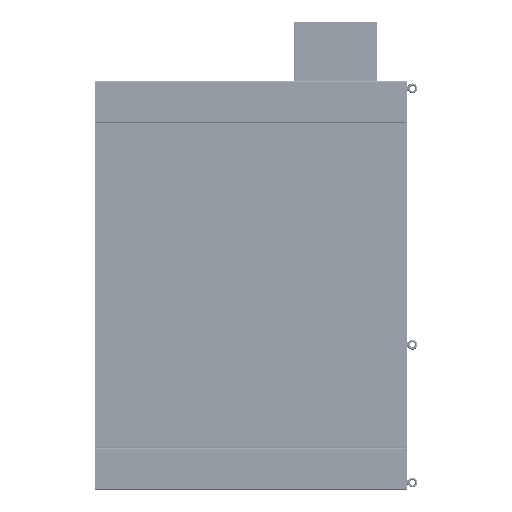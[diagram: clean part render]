
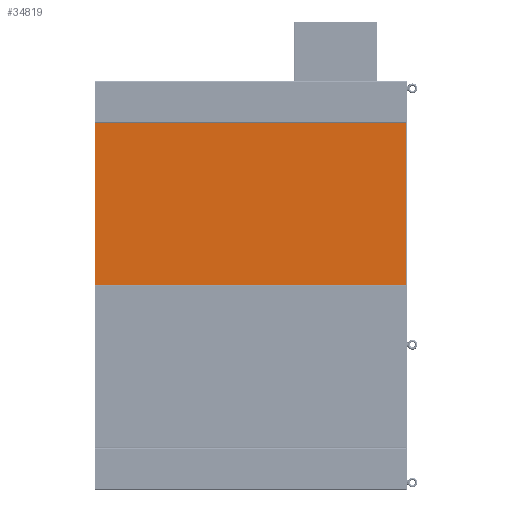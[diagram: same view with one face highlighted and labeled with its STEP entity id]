
A CAD part, left-side view. The second image highlights one B-rep face of the part: STEP entity #34819.
In plain terms, the highlighted planar face has unit normal (-1, 0, 0) as drawn and (0, 0, -1) by its records, which use the part's own axes.
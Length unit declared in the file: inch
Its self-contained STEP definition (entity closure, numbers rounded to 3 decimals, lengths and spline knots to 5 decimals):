
#32132=DIRECTION('',(0.,-1.,0.));
#32133=VECTOR('',#32132,89.75);
#32134=CARTESIAN_POINT('',(-23.25,0.,-0.125));
#32135=LINE('',#32134,#32133);
#32147=DIRECTION('',(1.,0.,0.));
#32148=VECTOR('',#32147,46.5);
#32149=CARTESIAN_POINT('',(-23.25,-89.75,-0.125));
#32150=LINE('',#32149,#32148);
#32154=DIRECTION('',(-1.,0.,0.));
#32155=VECTOR('',#32154,46.5);
#32156=CARTESIAN_POINT('',(23.25,0.,-0.125));
#32157=LINE('',#32156,#32155);
#32190=DIRECTION('',(0.,1.,0.));
#32191=VECTOR('',#32190,89.75);
#32192=CARTESIAN_POINT('',(23.25,-89.75,-0.125));
#32193=LINE('',#32192,#32191);
#33587=CARTESIAN_POINT('',(23.25,0.,-0.125));
#33588=VERTEX_POINT('',#33587);
#33589=CARTESIAN_POINT('',(23.25,-89.75,-0.125));
#33590=VERTEX_POINT('',#33589);
#33603=CARTESIAN_POINT('',(-23.25,-89.75,-0.125));
#33604=VERTEX_POINT('',#33603);
#33605=CARTESIAN_POINT('',(-23.25,0.,-0.125));
#33606=VERTEX_POINT('',#33605);
#34805=CARTESIAN_POINT('',(0.,0.,-0.125));
#34806=DIRECTION('',(0.,0.,1.));
#34807=DIRECTION('',(1.,0.,0.));
#34808=AXIS2_PLACEMENT_3D('',#34805,#34806,#34807);
#34809=PLANE('',#34808);
#34810=ORIENTED_EDGE('',*,*,#34798,.T.);
#34812=ORIENTED_EDGE('',*,*,#34811,.T.);
#34814=ORIENTED_EDGE('',*,*,#34813,.T.);
#34816=ORIENTED_EDGE('',*,*,#34815,.T.);
#34817=EDGE_LOOP('',(#34810,#34812,#34814,#34816));
#34818=FACE_OUTER_BOUND('',#34817,.F.);
#34798=EDGE_CURVE('',#33606,#33604,#32135,.T.);
#34811=EDGE_CURVE('',#33604,#33590,#32150,.T.);
#34813=EDGE_CURVE('',#33590,#33588,#32193,.T.);
#34815=EDGE_CURVE('',#33588,#33606,#32157,.T.);
#34819=ADVANCED_FACE('',(#34818),#34809,.F.);
